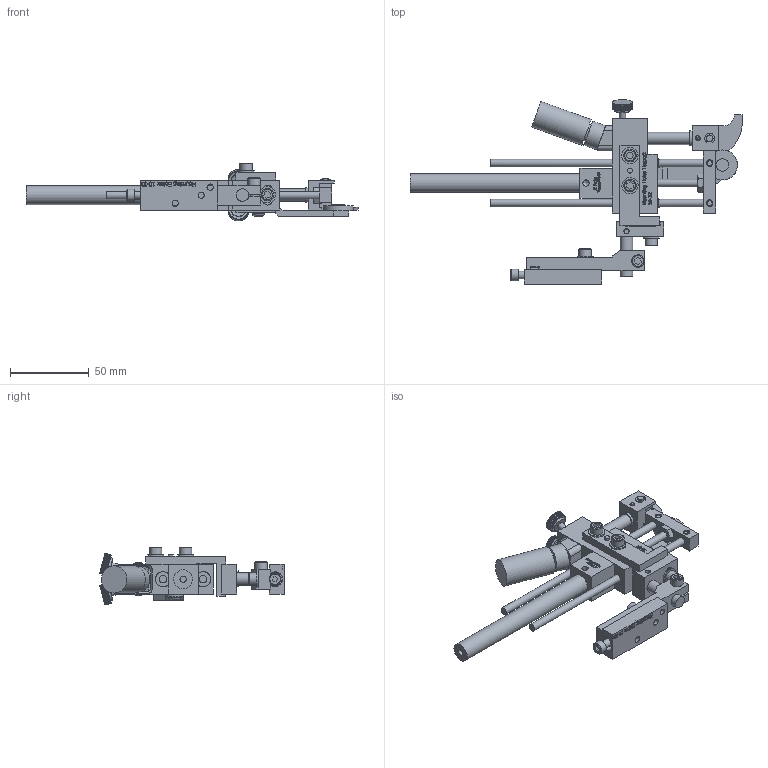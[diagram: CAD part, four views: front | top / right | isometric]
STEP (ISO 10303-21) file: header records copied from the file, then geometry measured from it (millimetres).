
FILE_DESCRIPTION((''),'2;1');
FILE_NAME('C:\Documents and Settings\Ron\My Documents\Inventor\Sprinter Drawing\Machines in Inventor\Model 44\Dot\1-fourth\Ext Hd 1in\Brkt\Ret\Model 44 Ext HD 1in .25 dia dot Ret w brkt.stp','2009-01-20T07:41:05',('Ron'),(''),'Autodesk Inventor 2008','Autodesk Inventor 2008','');
FILE_SCHEMA(('AUTOMOTIVE_DESIGN { 1 0 10303 214 1 1 1 1 }'));
Length unit declared in the file: inch
Products named in the file (1): Model 44 Ext HD 1in .25 dia dot Ret w brkt
Bounding box: 210.85 x 117.12 x 36.82 mm (x, y, z)
Volume: 109911.4 mm3; surface area: 54037.1 mm2
Topology: 381 solids, 381 shells, 6203 faces, 15410 edges, 9531 vertices
Faces by surface type: plane 4356, bspline 1321, cylinder 471, cone 51, torus 4
Full cylindrical faces by diameter (mm): 3.175 x4, 3.302 x1, 3.962 x1, 4.064 x7, 4.166 x1, 4.699 x1, 4.75 x4, 4.775 x1, 4.826 x7, 5.08 x1, 5.156 x4, 5.207 x2, 5.41 x2, 6.096 x1, 6.299 x2, 6.35 x1, 7.239 x1, 7.62 x1, 7.874 x1, 7.925 x7, 7.938 x1, 8.128 x1, 9.017 x1, 9.398 x1, 9.525 x2, 10.312 x4, 10.922 x1, 11.036 x1, 11.938 x2, 14.478 x1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
Entity records: 197649 total; most frequent: CARTESIAN_POINT 54214, ORIENTED_EDGE 30356, DIRECTION 23588, EDGE_CURVE 15178, VECTOR 11360, LINE 11360, VERTEX_POINT 9461, EDGE_LOOP 6767
